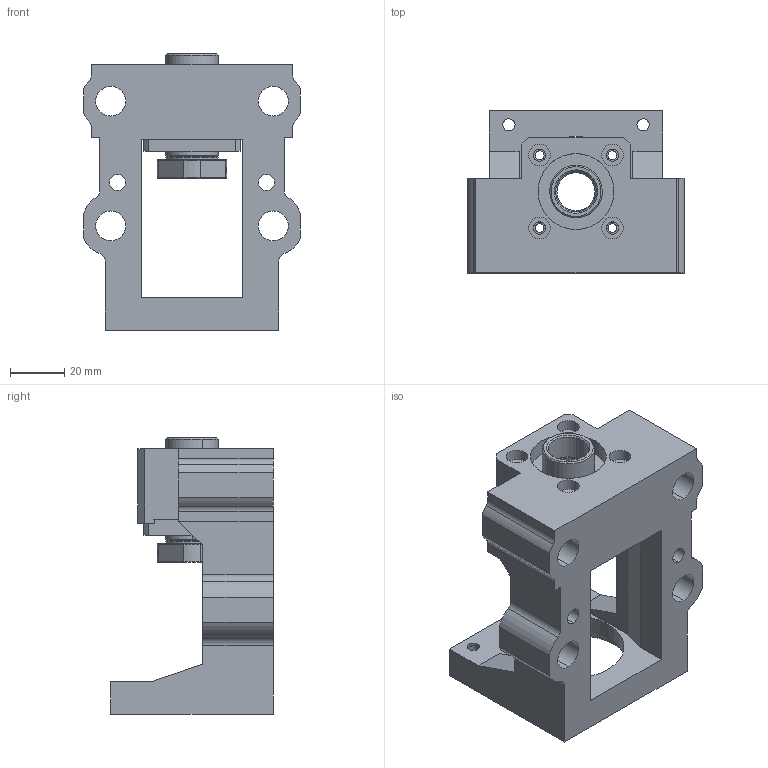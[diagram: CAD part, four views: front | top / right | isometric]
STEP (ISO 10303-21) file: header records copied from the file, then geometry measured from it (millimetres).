
FILE_DESCRIPTION((''),'2;1');
FILE_NAME('M60D-EK15-C_ASM','2020-05-11T',('Administrator'),(''),'PRO/ENGINEER BY PARAMETRIC TECHNOLOGY CORPORATION, 2010280','PRO/ENGINEER BY PARAMETRIC TECHNOLOGY CORPORATION, 2010280','');
FILE_SCHEMA(('CONFIG_CONTROL_DESIGN'));
Length unit declared in the file: millimetre
Products named in the file (7): MBCE15-DP_3; MBCE15-DP_1; 1; MBCE15-DP_2_ASM_ASM_ASM; _MBCE15-DP; MBCE15-DP_ASM_ASM_ASM; M60D-EK15-C_ASM
Assembly tree (7 placements, depth 4):
  M60D-EK15-C_ASM
    MBCE15-DP_ASM_ASM_ASM
      MBCE15-DP_3
      MBCE15-DP_1  x2
      MBCE15-DP_2_ASM_ASM_ASM
        1
      _MBCE15-DP
Bounding box: 80 x 60 x 102 mm (x, y, z)
Volume: 145867 mm3; surface area: 48145.2 mm2
Topology: 5 solids, 9 shells, 246 faces, 640 edges, 417 vertices
Faces by surface type: cylinder 120, plane 86, cone 36, bspline 4
Entity records: 7896 total; most frequent: CARTESIAN_POINT 1698, DIRECTION 1346, ORIENTED_EDGE 1200, EDGE_CURVE 608, AXIS2_PLACEMENT_3D 524, VERTEX_POINT 401, VECTOR 298, LINE 298
